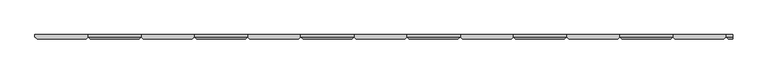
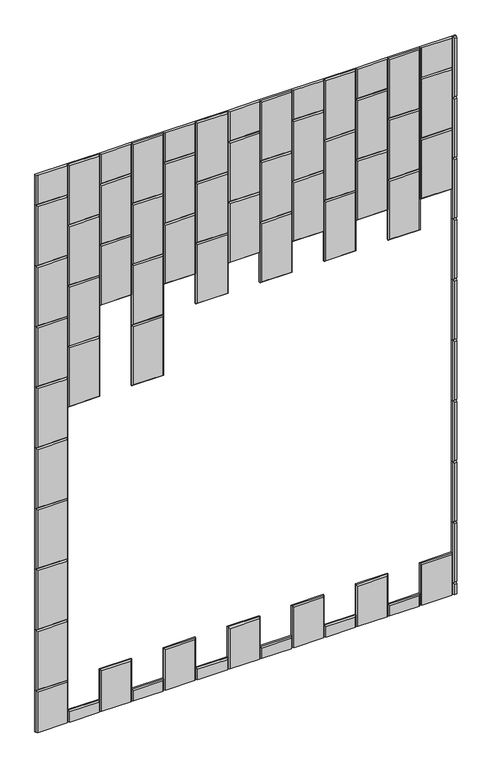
"""IFC4 building model written with IfcOpenShell, lengths in millimetres: proxy geometry, Wall_Wisteria 7.3dm."""

import ifcopenshell
import ifcopenshell.guid

model = None  # the IFC model being written
_history = None  # IfcOwnerHistory: only IFC2X3 demands one
_inside = {}  # id of a spatial element -> (the spatial element, [elements in it])
_under = {}  # id of a project, library or spatial element -> (it, [spatial elements below it])
_declared = {}  # id of a project -> (the project, [libraries it declares])
_typed = {}  # id of a type object -> (the type object, [elements of that type])
_made_of = {}  # id of a material, layer set ... -> (it, [elements and type objects made of it])


def new_model(schema):
    """Start an empty IFC model of exactly this schema.

    Asked for "IFC4X3", IfcOpenShell would pick the latest addendum, in which some entities
    have other attributes; the version numbers below select the first issue.
    IFC2X3 requires an IfcOwnerHistory on every rooted entity: one is made here for all.
    """
    global model, _history
    if schema == "IFC4X3":
        model = ifcopenshell.file(schema_version=(4, 3, 0, 0))
    else:
        model = ifcopenshell.file(schema=schema)
    _inside.clear()
    _under.clear()
    _declared.clear()
    _typed.clear()
    _made_of.clear()
    _history = None
    if model.schema == "IFC2X3":
        org = make("IfcOrganization", Name="unknown")
        user = make(
            "IfcPersonAndOrganization",
            ThePerson=make("IfcPerson", FamilyName="unknown"),
            TheOrganization=org,
        )
        app = make(
            "IfcApplication",
            ApplicationDeveloper=org,
            Version="unknown",
            ApplicationFullName="unknown",
            ApplicationIdentifier="unknown",
        )
        _history = make(
            "IfcOwnerHistory",
            OwningUser=user,
            OwningApplication=app,
            ChangeAction="ADDED",
            CreationDate=0,
        )
    return model


def make(cls, **values):
    """One entity of the class cls with the attributes given. An attribute that is None is left unset."""
    return model.create_entity(
        cls, **{name: value for name, value in values.items() if value is not None}
    )


def rooted(cls, **values):
    """An entity with a GlobalId (a new one), such as an element, a storey or a relation."""
    return make(cls, GlobalId=ifcopenshell.guid.new(), OwnerHistory=_history, **values)


def si_unit(unit_type, name, prefix=None):
    """IfcSIUnit, for example si_unit("LENGTHUNIT", "METRE", prefix="MILLI")."""
    return make("IfcSIUnit", UnitType=unit_type, Prefix=prefix, Name=name)


def assignment(units):
    """IfcUnitAssignment: the units of a project."""
    return None if units is None else make("IfcUnitAssignment", Units=units)


def point(xyz):
    """IfcCartesianPoint."""
    return None if xyz is None else make("IfcCartesianPoint", Coordinates=xyz)


def direction(xyz):
    """IfcDirection."""
    return None if xyz is None else make("IfcDirection", DirectionRatios=xyz)


def frame(location, z_axis=None, x_axis=None):
    """IfcAxis2Placement3D, a coordinate frame: its origin and axes. An axis left out is left unset."""
    return make(
        "IfcAxis2Placement3D",
        Location=point(location),
        Axis=direction(z_axis),
        RefDirection=direction(x_axis),
    )


def origin():
    """The frame at (0, 0, 0) with its axes left unset."""
    return frame((0.0, 0.0, 0.0))


def place(relative_to, where):
    """IfcLocalPlacement: puts the frame where relative to a parent placement (None: the world)."""
    return make(
        "IfcLocalPlacement", PlacementRelTo=relative_to, RelativePlacement=where
    )


def context(
    kind, dimensions, precision=None, world=None, true_north=None, identifier=None
):
    """IfcGeometricRepresentationContext, for example the 3D "Model" context."""
    return make(
        "IfcGeometricRepresentationContext",
        ContextIdentifier=identifier,
        ContextType=kind,
        CoordinateSpaceDimension=dimensions,
        Precision=precision,
        WorldCoordinateSystem=world,
        TrueNorth=true_north,
    )


def project(units=None, contexts=None):
    """IfcProject with its units and contexts."""
    return rooted(
        "IfcProject",
        Name="project",
        RepresentationContexts=contexts,
        UnitsInContext=assignment(units),
    )


def spatial(cls, under=None, at=None, **own):
    """A site, building, storey or space (cls), placed at a placement, below another one or the project."""
    s = rooted(cls, ObjectPlacement=at, **own)
    if under is not None:
        _under.setdefault(under.id(), (under, []))[1].append(s)
    return s


def faces_of(points, faces, orient=None, outer=None):
    """IfcFace entities. A face is a list of loops; a loop is a list of indices into points, from 0.

    orient and outer hold one flag for each loop. By default every Orientation is true, the
    first loop of a face is its IfcFaceOuterBound and the others are IfcFaceBound.
    """
    made = []
    for i, loops in enumerate(faces):
        bounds = []
        for j, loop in enumerate(loops):
            is_outer = j == 0 if outer is None else outer[i][j]
            bounds.append(
                make(
                    "IfcFaceOuterBound" if is_outer else "IfcFaceBound",
                    Bound=make("IfcPolyLoop", Polygon=[points[k] for k in loop]),
                    Orientation=True if orient is None else orient[i][j],
                )
            )
        made.append(make("IfcFace", Bounds=bounds))
    return made


def faceted_brep(points, faces, orient=None, outer=None, voids=None):
    """IfcFacetedBrep: a solid bounded by flat faces; with voids (closed shells), ...WithVoids."""
    shared = [point(p) for p in points]
    hull = make("IfcClosedShell", CfsFaces=faces_of(shared, faces, orient, outer))
    if voids is None:
        return make("IfcFacetedBrep", Outer=hull)
    return make(
        "IfcFacetedBrepWithVoids",
        Outer=hull,
        Voids=[
            make(cls, CfsFaces=faces_of(shared, fs, o, b)) for cls, fs, o, b in voids
        ],
    )


def shape(context_of_items, identifier, shape_type, items):
    """IfcShapeRepresentation: the items that make up one representation, for example the "Body"."""
    return make(
        "IfcShapeRepresentation",
        ContextOfItems=context_of_items,
        RepresentationIdentifier=identifier,
        RepresentationType=shape_type,
        Items=items,
    )


def source(mapping_origin, context_of_items, identifier, shape_type, items):
    """IfcRepresentationMap: a shape defined once, which mapped items show again and again."""
    return make(
        "IfcRepresentationMap",
        MappingOrigin=mapping_origin,
        MappedRepresentation=shape(context_of_items, identifier, shape_type, items),
    )


def transform(
    local_origin,
    x_axis=None,
    y_axis=None,
    z_axis=None,
    scale=None,
    scale2=None,
    scale3=None,
    uniform=True,
):
    """IfcCartesianTransformationOperator3D, or its non-uniform kind. x_axis, y_axis, z_axis: its Axis1, 2, 3."""
    if uniform:
        return make(
            "IfcCartesianTransformationOperator3D",
            Axis1=direction(x_axis),
            Axis2=direction(y_axis),
            LocalOrigin=point(local_origin),
            Scale=scale,
            Axis3=direction(z_axis),
        )
    return make(
        "IfcCartesianTransformationOperator3DnonUniform",
        Axis1=direction(x_axis),
        Axis2=direction(y_axis),
        LocalOrigin=point(local_origin),
        Scale=scale,
        Axis3=direction(z_axis),
        Scale2=scale2,
        Scale3=scale3,
    )


def mapped(mapping_source, mapping_target):
    """IfcMappedItem: shows the shape of a source again, moved by a transform."""
    return make(
        "IfcMappedItem", MappingSource=mapping_source, MappingTarget=mapping_target
    )


def made_of(thing, what):
    """Note that an element or type object is made of a material, layer set ...; save() writes the relation."""
    if what is not None:
        _made_of.setdefault(what.id(), (what, []))[1].append(thing)
    return thing


def element(
    cls,
    number,
    at=None,
    inside=None,
    cuts=None,
    type_object=None,
    material=None,
    context=None,
    identifier="Body",
    shape_type=None,
    held_by="IfcProductDefinitionShape",
    body=None,
    shapes=None,
    **own,
):
    """One element of the class cls, such as IfcWall. Its Tag is "e" and its number.

    at: its placement. inside: the storey or other place that contains it. cuts: it is an
    opening in that element (IfcRelVoidsElement). A single representation is given by context,
    identifier, shape_type and body (its items); several are given by shapes. held_by: the class
    of the entity that holds the representations. save() writes the other relations.
    """
    e = rooted(cls, Tag="e%d" % number, ObjectPlacement=at, **own)
    if body is not None:
        shapes = [shape(context, identifier, shape_type, body)]
    if shapes is not None:
        e.Representation = make(held_by, Representations=shapes)
    if inside is not None:
        _inside.setdefault(inside.id(), (inside, []))[1].append(e)
    if cuts is not None:
        rooted(
            "IfcRelVoidsElement", RelatingBuildingElement=cuts, RelatedOpeningElement=e
        )
    if type_object is not None:
        _typed.setdefault(type_object.id(), (type_object, []))[1].append(e)
    return made_of(e, material)


def aggregate(whole, parts):
    """IfcRelAggregates: a whole, such as a stair, and the parts it consists of."""
    return rooted("IfcRelAggregates", RelatingObject=whole, RelatedObjects=parts)


def save(model, path):
    """Write the relations noted so far, then the file.

    IfcRelAggregates (storeys below a building ...), IfcRelContainedInSpatialStructure (elements
    in a storey), IfcRelDefinesByType, IfcRelAssociatesMaterial and IfcRelDeclares: one each for
    every whole, place, type object, material and project.
    """
    for whole, parts in _under.values():
        aggregate(whole, parts)
    for where, things in _inside.values():
        rooted(
            "IfcRelContainedInSpatialStructure",
            RelatedElements=things,
            RelatingStructure=where,
        )
    for kind, things in _typed.values():
        rooted("IfcRelDefinesByType", RelatedObjects=things, RelatingType=kind)
    for what, things in _made_of.values():
        rooted("IfcRelAssociatesMaterial", RelatedObjects=things, RelatingMaterial=what)
    for by, libraries in _declared.values():
        rooted("IfcRelDeclares", RelatingContext=by, RelatedDefinitions=libraries)
    model.write(path)


def generic_models_bda26717(model_context):
    return source(origin(), model_context, "Body", "Brep", [
        faceted_brep([(9473.4096042, 12.0, 1580.8), (9473.4096042, 12.0, 1885.6), (9625.8096042, 12.0, 1885.6), (9625.8096042, 12.0, 1580.8), (9473.4096042, 6.0, 1580.8), (9625.8096042, 6.0, 1580.8), (9625.8096042, 6.0, 1885.6), (9473.4096042, 6.0, 1885.6), (9619.8096042, 0.0, 1879.6), (9479.4096042, 0.0, 1879.6), (9479.4096042, 0.0, 1586.8), (9619.8096042, 0.0, 1586.8)], [[[0, 1, 2, 3]], [[4, 0, 3, 5]], [[5, 3, 2, 6]], [[6, 2, 1, 7]], [[7, 1, 0, 4]], [[8, 9, 10, 11]], [[4, 5, 11, 10]], [[5, 6, 8, 11]], [[6, 7, 9, 8]], [[7, 4, 10, 9]]]),
        faceted_brep([(9168.6096042, 12.0, 1580.8), (9168.6096042, 12.0, 1885.6), (9321.0096042, 12.0, 1885.6), (9321.0096042, 12.0, 1580.8), (9168.6096042, 6.0, 1580.8), (9321.0096042, 6.0, 1580.8), (9321.0096042, 6.0, 1885.6), (9168.6096042, 6.0, 1885.6), (9315.0096042, 0.0, 1879.6), (9174.6096042, 0.0, 1879.6), (9174.6096042, 0.0, 1586.8), (9315.0096042, 0.0, 1586.8)], [[[0, 1, 2, 3]], [[4, 0, 3, 5]], [[5, 3, 2, 6]], [[6, 2, 1, 7]], [[7, 1, 0, 4]], [[8, 9, 10, 11]], [[4, 5, 11, 10]], [[5, 6, 8, 11]], [[6, 7, 9, 8]], [[7, 4, 10, 9]]]),
        faceted_brep([(10692.6096042, 12.0, 2495.2), (10692.6096042, 12.0, 2800.0), (10845.0096042, 12.0, 2800.0), (10845.0096042, 12.0, 2495.2), (10692.6096042, 6.0, 2495.2), (10845.0096042, 6.0, 2495.2), (10845.0096042, 6.0, 2800.0), (10692.6096042, 6.0, 2800.0), (10839.0096042, 0.0, 2794.0), (10698.6096042, 0.0, 2794.0), (10698.6096042, 0.0, 2501.2), (10839.0096042, 0.0, 2501.2)], [[[0, 1, 2, 3]], [[4, 0, 3, 5]], [[5, 3, 2, 6]], [[6, 2, 1, 7]], [[7, 1, 0, 4]], [[8, 9, 10, 11]], [[4, 5, 11, 10]], [[5, 6, 8, 11]], [[6, 7, 9, 8]], [[7, 4, 10, 9]]]),
        faceted_brep([(10387.8096042, 12.0, 2495.2), (10387.8096042, 12.0, 2800.0), (10540.2096042, 12.0, 2800.0), (10540.2096042, 12.0, 2495.2), (10387.8096042, 6.0, 2495.2), (10540.2096042, 6.0, 2495.2), (10540.2096042, 6.0, 2800.0), (10387.8096042, 6.0, 2800.0), (10534.2096042, 0.0, 2794.0), (10393.8096042, 0.0, 2794.0), (10393.8096042, 0.0, 2501.2), (10534.2096042, 0.0, 2501.2)], [[[0, 1, 2, 3]], [[4, 0, 3, 5]], [[5, 3, 2, 6]], [[6, 2, 1, 7]], [[7, 1, 0, 4]], [[8, 9, 10, 11]], [[4, 5, 11, 10]], [[5, 6, 8, 11]], [[6, 7, 9, 8]], [[7, 4, 10, 9]]]),
        faceted_brep([(10083.0096042, 12.0, 2495.2), (10083.0096042, 12.0, 2800.0), (10235.4096042, 12.0, 2800.0), (10235.4096042, 12.0, 2495.2), (10083.0096042, 6.0, 2495.2), (10235.4096042, 6.0, 2495.2), (10235.4096042, 6.0, 2800.0), (10083.0096042, 6.0, 2800.0), (10229.4096042, 0.0, 2794.0), (10089.0096042, 0.0, 2794.0), (10089.0096042, 0.0, 2501.2), (10229.4096042, 0.0, 2501.2)], [[[0, 1, 2, 3]], [[4, 0, 3, 5]], [[5, 3, 2, 6]], [[6, 2, 1, 7]], [[7, 1, 0, 4]], [[8, 9, 10, 11]], [[4, 5, 11, 10]], [[5, 6, 8, 11]], [[6, 7, 9, 8]], [[7, 4, 10, 9]]]),
        faceted_brep([(9778.2096042, 12.0, 2495.2), (9778.2096042, 12.0, 2800.0), (9930.6096042, 12.0, 2800.0), (9930.6096042, 12.0, 2495.2), (9778.2096042, 6.0, 2495.2), (9930.6096042, 6.0, 2495.2), (9930.6096042, 6.0, 2800.0), (9778.2096042, 6.0, 2800.0), (9924.6096042, 0.0, 2794.0), (9784.2096042, 0.0, 2794.0), (9784.2096042, 0.0, 2501.2), (9924.6096042, 0.0, 2501.2)], [[[0, 1, 2, 3]], [[4, 0, 3, 5]], [[5, 3, 2, 6]], [[6, 2, 1, 7]], [[7, 1, 0, 4]], [[8, 9, 10, 11]], [[4, 5, 11, 10]], [[5, 6, 8, 11]], [[6, 7, 9, 8]], [[7, 4, 10, 9]]]),
        faceted_brep([(9473.4096042, 12.0, 2495.2), (9473.4096042, 12.0, 2800.0), (9625.8096042, 12.0, 2800.0), (9625.8096042, 12.0, 2495.2), (9473.4096042, 6.0, 2495.2), (9625.8096042, 6.0, 2495.2), (9625.8096042, 6.0, 2800.0), (9473.4096042, 6.0, 2800.0), (9619.8096042, 0.0, 2794.0), (9479.4096042, 0.0, 2794.0), (9479.4096042, 0.0, 2501.2), (9619.8096042, 0.0, 2501.2)], [[[0, 1, 2, 3]], [[4, 0, 3, 5]], [[5, 3, 2, 6]], [[6, 2, 1, 7]], [[7, 1, 0, 4]], [[8, 9, 10, 11]], [[4, 5, 11, 10]], [[5, 6, 8, 11]], [[6, 7, 9, 8]], [[7, 4, 10, 9]]]),
        faceted_brep([(9168.6096042, 12.0, 2495.2), (9168.6096042, 12.0, 2800.0), (9321.0096042, 12.0, 2800.0), (9321.0096042, 12.0, 2495.2), (9168.6096042, 6.0, 2495.2), (9321.0096042, 6.0, 2495.2), (9321.0096042, 6.0, 2800.0), (9168.6096042, 6.0, 2800.0), (9315.0096042, 0.0, 2794.0), (9174.6096042, 0.0, 2794.0), (9174.6096042, 0.0, 2501.2), (9315.0096042, 0.0, 2501.2)], [[[0, 1, 2, 3]], [[4, 0, 3, 5]], [[5, 3, 2, 6]], [[6, 2, 1, 7]], [[7, 1, 0, 4]], [[8, 9, 10, 11]], [[4, 5, 11, 10]], [[5, 6, 8, 11]], [[6, 7, 9, 8]], [[7, 4, 10, 9]]]),
        faceted_brep([(10845.0096042, 12.0, 2342.8), (10845.0096042, 12.0, 2647.6), (10997.4096042, 12.0, 2647.6), (10997.4096042, 12.0, 2342.8), (10845.0096042, 6.0, 2342.8), (10997.4096042, 6.0, 2342.8), (10997.4096042, 6.0, 2647.6), (10845.0096042, 6.0, 2647.6), (10991.4096042, 0.0, 2641.6), (10851.0096042, 0.0, 2641.6), (10851.0096042, 0.0, 2348.8), (10991.4096042, 0.0, 2348.8)], [[[0, 1, 2, 3]], [[4, 0, 3, 5]], [[5, 3, 2, 6]], [[6, 2, 1, 7]], [[7, 1, 0, 4]], [[8, 9, 10, 11]], [[4, 5, 11, 10]], [[5, 6, 8, 11]], [[6, 7, 9, 8]], [[7, 4, 10, 9]]]),
        faceted_brep([(10540.2096042, 12.0, 2342.8), (10540.2096042, 12.0, 2647.6), (10692.6096042, 12.0, 2647.6), (10692.6096042, 12.0, 2342.8), (10540.2096042, 6.0, 2342.8), (10692.6096042, 6.0, 2342.8), (10692.6096042, 6.0, 2647.6), (10540.2096042, 6.0, 2647.6), (10686.6096042, 0.0, 2641.6), (10546.2096042, 0.0, 2641.6), (10546.2096042, 0.0, 2348.8), (10686.6096042, 0.0, 2348.8)], [[[0, 1, 2, 3]], [[4, 0, 3, 5]], [[5, 3, 2, 6]], [[6, 2, 1, 7]], [[7, 1, 0, 4]], [[8, 9, 10, 11]], [[4, 5, 11, 10]], [[5, 6, 8, 11]], [[6, 7, 9, 8]], [[7, 4, 10, 9]]]),
        faceted_brep([(10692.6096042, 12.0, 2190.4), (10692.6096042, 12.0, 2495.2), (10845.0096042, 12.0, 2495.2), (10845.0096042, 12.0, 2190.4), (10692.6096042, 6.0, 2190.4), (10845.0096042, 6.0, 2190.4), (10845.0096042, 6.0, 2495.2), (10692.6096042, 6.0, 2495.2), (10839.0096042, 0.0, 2489.2), (10698.6096042, 0.0, 2489.2), (10698.6096042, 0.0, 2196.4), (10839.0096042, 0.0, 2196.4)], [[[0, 1, 2, 3]], [[4, 0, 3, 5]], [[5, 3, 2, 6]], [[6, 2, 1, 7]], [[7, 1, 0, 4]], [[8, 9, 10, 11]], [[4, 5, 11, 10]], [[5, 6, 8, 11]], [[6, 7, 9, 8]], [[7, 4, 10, 9]]]),
        faceted_brep([(10235.4096042, 12.0, 2342.8), (10235.4096042, 12.0, 2647.6), (10387.8096042, 12.0, 2647.6), (10387.8096042, 12.0, 2342.8), (10235.4096042, 6.0, 2342.8), (10387.8096042, 6.0, 2342.8), (10387.8096042, 6.0, 2647.6), (10235.4096042, 6.0, 2647.6), (10381.8096042, 0.0, 2641.6), (10241.4096042, 0.0, 2641.6), (10241.4096042, 0.0, 2348.8), (10381.8096042, 0.0, 2348.8)], [[[0, 1, 2, 3]], [[4, 0, 3, 5]], [[5, 3, 2, 6]], [[6, 2, 1, 7]], [[7, 1, 0, 4]], [[8, 9, 10, 11]], [[4, 5, 11, 10]], [[5, 6, 8, 11]], [[6, 7, 9, 8]], [[7, 4, 10, 9]]]),
        faceted_brep([(10387.8096042, 12.0, 2190.4), (10387.8096042, 12.0, 2495.2), (10540.2096042, 12.0, 2495.2), (10540.2096042, 12.0, 2190.4), (10387.8096042, 6.0, 2190.4), (10540.2096042, 6.0, 2190.4), (10540.2096042, 6.0, 2495.2), (10387.8096042, 6.0, 2495.2), (10534.2096042, 0.0, 2489.2), (10393.8096042, 0.0, 2489.2), (10393.8096042, 0.0, 2196.4), (10534.2096042, 0.0, 2196.4)], [[[0, 1, 2, 3]], [[4, 0, 3, 5]], [[5, 3, 2, 6]], [[6, 2, 1, 7]], [[7, 1, 0, 4]], [[8, 9, 10, 11]], [[4, 5, 11, 10]], [[5, 6, 8, 11]], [[6, 7, 9, 8]], [[7, 4, 10, 9]]]),
        faceted_brep([(9930.6096042, 12.0, 2342.8), (9930.6096042, 12.0, 2647.6), (10083.0096042, 12.0, 2647.6), (10083.0096042, 12.0, 2342.8), (9930.6096042, 6.0, 2342.8), (10083.0096042, 6.0, 2342.8), (10083.0096042, 6.0, 2647.6), (9930.6096042, 6.0, 2647.6), (10077.0096042, 0.0, 2641.6), (9936.6096042, 0.0, 2641.6), (9936.6096042, 0.0, 2348.8), (10077.0096042, 0.0, 2348.8)], [[[0, 1, 2, 3]], [[4, 0, 3, 5]], [[5, 3, 2, 6]], [[6, 2, 1, 7]], [[7, 1, 0, 4]], [[8, 9, 10, 11]], [[4, 5, 11, 10]], [[5, 6, 8, 11]], [[6, 7, 9, 8]], [[7, 4, 10, 9]]]),
        faceted_brep([(10083.0096042, 12.0, 2190.4), (10083.0096042, 12.0, 2495.2), (10235.4096042, 12.0, 2495.2), (10235.4096042, 12.0, 2190.4), (10083.0096042, 6.0, 2190.4), (10235.4096042, 6.0, 2190.4), (10235.4096042, 6.0, 2495.2), (10083.0096042, 6.0, 2495.2), (10229.4096042, 0.0, 2489.2), (10089.0096042, 0.0, 2489.2), (10089.0096042, 0.0, 2196.4), (10229.4096042, 0.0, 2196.4)], [[[0, 1, 2, 3]], [[4, 0, 3, 5]], [[5, 3, 2, 6]], [[6, 2, 1, 7]], [[7, 1, 0, 4]], [[8, 9, 10, 11]], [[4, 5, 11, 10]], [[5, 6, 8, 11]], [[6, 7, 9, 8]], [[7, 4, 10, 9]]]),
        faceted_brep([(9625.8096042, 12.0, 2342.8), (9625.8096042, 12.0, 2647.6), (9778.2096042, 12.0, 2647.6), (9778.2096042, 12.0, 2342.8), (9625.8096042, 6.0, 2342.8), (9778.2096042, 6.0, 2342.8), (9778.2096042, 6.0, 2647.6), (9625.8096042, 6.0, 2647.6), (9772.2096042, 0.0, 2641.6), (9631.8096042, 0.0, 2641.6), (9631.8096042, 0.0, 2348.8), (9772.2096042, 0.0, 2348.8)], [[[0, 1, 2, 3]], [[4, 0, 3, 5]], [[5, 3, 2, 6]], [[6, 2, 1, 7]], [[7, 1, 0, 4]], [[8, 9, 10, 11]], [[4, 5, 11, 10]], [[5, 6, 8, 11]], [[6, 7, 9, 8]], [[7, 4, 10, 9]]]),
        faceted_brep([(9778.2096042, 12.0, 2190.4), (9778.2096042, 12.0, 2495.2), (9930.6096042, 12.0, 2495.2), (9930.6096042, 12.0, 2190.4), (9778.2096042, 6.0, 2190.4), (9930.6096042, 6.0, 2190.4), (9930.6096042, 6.0, 2495.2), (9778.2096042, 6.0, 2495.2), (9924.6096042, 0.0, 2489.2), (9784.2096042, 0.0, 2489.2), (9784.2096042, 0.0, 2196.4), (9924.6096042, 0.0, 2196.4)], [[[0, 1, 2, 3]], [[4, 0, 3, 5]], [[5, 3, 2, 6]], [[6, 2, 1, 7]], [[7, 1, 0, 4]], [[8, 9, 10, 11]], [[4, 5, 11, 10]], [[5, 6, 8, 11]], [[6, 7, 9, 8]], [[7, 4, 10, 9]]]),
        faceted_brep([(9321.0096042, 12.0, 2342.8), (9321.0096042, 12.0, 2647.6), (9473.4096042, 12.0, 2647.6), (9473.4096042, 12.0, 2342.8), (9321.0096042, 6.0, 2342.8), (9473.4096042, 6.0, 2342.8), (9473.4096042, 6.0, 2647.6), (9321.0096042, 6.0, 2647.6), (9467.4096042, 0.0, 2641.6), (9327.0096042, 0.0, 2641.6), (9327.0096042, 0.0, 2348.8), (9467.4096042, 0.0, 2348.8)], [[[0, 1, 2, 3]], [[4, 0, 3, 5]], [[5, 3, 2, 6]], [[6, 2, 1, 7]], [[7, 1, 0, 4]], [[8, 9, 10, 11]], [[4, 5, 11, 10]], [[5, 6, 8, 11]], [[6, 7, 9, 8]], [[7, 4, 10, 9]]]),
        faceted_brep([(9473.4096042, 12.0, 2190.4), (9473.4096042, 12.0, 2495.2), (9625.8096042, 12.0, 2495.2), (9625.8096042, 12.0, 2190.4), (9473.4096042, 6.0, 2190.4), (9625.8096042, 6.0, 2190.4), (9625.8096042, 6.0, 2495.2), (9473.4096042, 6.0, 2495.2), (9619.8096042, 0.0, 2489.2), (9479.4096042, 0.0, 2489.2), (9479.4096042, 0.0, 2196.4), (9619.8096042, 0.0, 2196.4)], [[[0, 1, 2, 3]], [[4, 0, 3, 5]], [[5, 3, 2, 6]], [[6, 2, 1, 7]], [[7, 1, 0, 4]], [[8, 9, 10, 11]], [[4, 5, 11, 10]], [[5, 6, 8, 11]], [[6, 7, 9, 8]], [[7, 4, 10, 9]]]),
        faceted_brep([(9168.6096042, 12.0, 2190.4), (9168.6096042, 12.0, 2495.2), (9321.0096042, 12.0, 2495.2), (9321.0096042, 12.0, 2190.4), (9168.6096042, 6.0, 2190.4), (9321.0096042, 6.0, 2190.4), (9321.0096042, 6.0, 2495.2), (9168.6096042, 6.0, 2495.2), (9315.0096042, 0.0, 2489.2), (9174.6096042, 0.0, 2489.2), (9174.6096042, 0.0, 2196.4), (9315.0096042, 0.0, 2196.4)], [[[0, 1, 2, 3]], [[4, 0, 3, 5]], [[5, 3, 2, 6]], [[6, 2, 1, 7]], [[7, 1, 0, 4]], [[8, 9, 10, 11]], [[4, 5, 11, 10]], [[5, 6, 8, 11]], [[6, 7, 9, 8]], [[7, 4, 10, 9]]]),
        faceted_brep([(10845.0096042, 12.0, 2038.0), (10845.0096042, 12.0, 2342.8), (10997.4096042, 12.0, 2342.8), (10997.4096042, 12.0, 2038.0), (10845.0096042, 6.0, 2038.0), (10997.4096042, 6.0, 2038.0), (10997.4096042, 6.0, 2342.8), (10845.0096042, 6.0, 2342.8), (10991.4096042, 0.0, 2336.8), (10851.0096042, 0.0, 2336.8), (10851.0096042, 0.0, 2044.0), (10991.4096042, 0.0, 2044.0)], [[[0, 1, 2, 3]], [[4, 0, 3, 5]], [[5, 3, 2, 6]], [[6, 2, 1, 7]], [[7, 1, 0, 4]], [[8, 9, 10, 11]], [[4, 5, 11, 10]], [[5, 6, 8, 11]], [[6, 7, 9, 8]], [[7, 4, 10, 9]]]),
        faceted_brep([(10540.2096042, 12.0, 2038.0), (10540.2096042, 12.0, 2342.8), (10692.6096042, 12.0, 2342.8), (10692.6096042, 12.0, 2038.0), (10540.2096042, 6.0, 2038.0), (10692.6096042, 6.0, 2038.0), (10692.6096042, 6.0, 2342.8), (10540.2096042, 6.0, 2342.8), (10686.6096042, 0.0, 2336.8), (10546.2096042, 0.0, 2336.8), (10546.2096042, 0.0, 2044.0), (10686.6096042, 0.0, 2044.0)], [[[0, 1, 2, 3]], [[4, 0, 3, 5]], [[5, 3, 2, 6]], [[6, 2, 1, 7]], [[7, 1, 0, 4]], [[8, 9, 10, 11]], [[4, 5, 11, 10]], [[5, 6, 8, 11]], [[6, 7, 9, 8]], [[7, 4, 10, 9]]]),
        faceted_brep([(10692.6096042, 12.0, 1885.6), (10692.6096042, 12.0, 2190.4), (10845.0096042, 12.0, 2190.4), (10845.0096042, 12.0, 1885.6), (10692.6096042, 6.0, 1885.6), (10845.0096042, 6.0, 1885.6), (10845.0096042, 6.0, 2190.4), (10692.6096042, 6.0, 2190.4), (10839.0096042, 0.0, 2184.4), (10698.6096042, 0.0, 2184.4), (10698.6096042, 0.0, 1891.6), (10839.0096042, 0.0, 1891.6)], [[[0, 1, 2, 3]], [[4, 0, 3, 5]], [[5, 3, 2, 6]], [[6, 2, 1, 7]], [[7, 1, 0, 4]], [[8, 9, 10, 11]], [[4, 5, 11, 10]], [[5, 6, 8, 11]], [[6, 7, 9, 8]], [[7, 4, 10, 9]]]),
        faceted_brep([(10235.4096042, 12.0, 2038.0), (10235.4096042, 12.0, 2342.8), (10387.8096042, 12.0, 2342.8), (10387.8096042, 12.0, 2038.0), (10235.4096042, 6.0, 2038.0), (10387.8096042, 6.0, 2038.0), (10387.8096042, 6.0, 2342.8), (10235.4096042, 6.0, 2342.8), (10381.8096042, 0.0, 2336.8), (10241.4096042, 0.0, 2336.8), (10241.4096042, 0.0, 2044.0), (10381.8096042, 0.0, 2044.0)], [[[0, 1, 2, 3]], [[4, 0, 3, 5]], [[5, 3, 2, 6]], [[6, 2, 1, 7]], [[7, 1, 0, 4]], [[8, 9, 10, 11]], [[4, 5, 11, 10]], [[5, 6, 8, 11]], [[6, 7, 9, 8]], [[7, 4, 10, 9]]]),
        faceted_brep([(10387.8096042, 12.0, 1885.6), (10387.8096042, 12.0, 2190.4), (10540.2096042, 12.0, 2190.4), (10540.2096042, 12.0, 1885.6), (10387.8096042, 6.0, 1885.6), (10540.2096042, 6.0, 1885.6), (10540.2096042, 6.0, 2190.4), (10387.8096042, 6.0, 2190.4), (10534.2096042, 0.0, 2184.4), (10393.8096042, 0.0, 2184.4), (10393.8096042, 0.0, 1891.6), (10534.2096042, 0.0, 1891.6)], [[[0, 1, 2, 3]], [[4, 0, 3, 5]], [[5, 3, 2, 6]], [[6, 2, 1, 7]], [[7, 1, 0, 4]], [[8, 9, 10, 11]], [[4, 5, 11, 10]], [[5, 6, 8, 11]], [[6, 7, 9, 8]], [[7, 4, 10, 9]]]),
        faceted_brep([(9930.6096042, 12.0, 2038.0), (9930.6096042, 12.0, 2342.8), (10083.0096042, 12.0, 2342.8), (10083.0096042, 12.0, 2038.0), (9930.6096042, 6.0, 2038.0), (10083.0096042, 6.0, 2038.0), (10083.0096042, 6.0, 2342.8), (9930.6096042, 6.0, 2342.8), (10077.0096042, 0.0, 2336.8), (9936.6096042, 0.0, 2336.8), (9936.6096042, 0.0, 2044.0), (10077.0096042, 0.0, 2044.0)], [[[0, 1, 2, 3]], [[4, 0, 3, 5]], [[5, 3, 2, 6]], [[6, 2, 1, 7]], [[7, 1, 0, 4]], [[8, 9, 10, 11]], [[4, 5, 11, 10]], [[5, 6, 8, 11]], [[6, 7, 9, 8]], [[7, 4, 10, 9]]]),
        faceted_brep([(10083.0096042, 12.0, 1885.6), (10083.0096042, 12.0, 2190.4), (10235.4096042, 12.0, 2190.4), (10235.4096042, 12.0, 1885.6), (10083.0096042, 6.0, 1885.6), (10235.4096042, 6.0, 1885.6), (10235.4096042, 6.0, 2190.4), (10083.0096042, 6.0, 2190.4), (10229.4096042, 0.0, 2184.4), (10089.0096042, 0.0, 2184.4), (10089.0096042, 0.0, 1891.6), (10229.4096042, 0.0, 1891.6)], [[[0, 1, 2, 3]], [[4, 0, 3, 5]], [[5, 3, 2, 6]], [[6, 2, 1, 7]], [[7, 1, 0, 4]], [[8, 9, 10, 11]], [[4, 5, 11, 10]], [[5, 6, 8, 11]], [[6, 7, 9, 8]], [[7, 4, 10, 9]]]),
        faceted_brep([(9625.8096042, 12.0, 2038.0), (9625.8096042, 12.0, 2342.8), (9778.2096042, 12.0, 2342.8), (9778.2096042, 12.0, 2038.0), (9625.8096042, 6.0, 2038.0), (9778.2096042, 6.0, 2038.0), (9778.2096042, 6.0, 2342.8), (9625.8096042, 6.0, 2342.8), (9772.2096042, 0.0, 2336.8), (9631.8096042, 0.0, 2336.8), (9631.8096042, 0.0, 2044.0), (9772.2096042, 0.0, 2044.0)], [[[0, 1, 2, 3]], [[4, 0, 3, 5]], [[5, 3, 2, 6]], [[6, 2, 1, 7]], [[7, 1, 0, 4]], [[8, 9, 10, 11]], [[4, 5, 11, 10]], [[5, 6, 8, 11]], [[6, 7, 9, 8]], [[7, 4, 10, 9]]]),
        faceted_brep([(9778.2096042, 12.0, 1885.6), (9778.2096042, 12.0, 2190.4), (9930.6096042, 12.0, 2190.4), (9930.6096042, 12.0, 1885.6), (9778.2096042, 6.0, 1885.6), (9930.6096042, 6.0, 1885.6), (9930.6096042, 6.0, 2190.4), (9778.2096042, 6.0, 2190.4), (9924.6096042, 0.0, 2184.4), (9784.2096042, 0.0, 2184.4), (9784.2096042, 0.0, 1891.6), (9924.6096042, 0.0, 1891.6)], [[[0, 1, 2, 3]], [[4, 0, 3, 5]], [[5, 3, 2, 6]], [[6, 2, 1, 7]], [[7, 1, 0, 4]], [[8, 9, 10, 11]], [[4, 5, 11, 10]], [[5, 6, 8, 11]], [[6, 7, 9, 8]], [[7, 4, 10, 9]]]),
        faceted_brep([(9321.0096042, 12.0, 2038.0), (9321.0096042, 12.0, 2342.8), (9473.4096042, 12.0, 2342.8), (9473.4096042, 12.0, 2038.0), (9321.0096042, 6.0, 2038.0), (9473.4096042, 6.0, 2038.0), (9473.4096042, 6.0, 2342.8), (9321.0096042, 6.0, 2342.8), (9467.4096042, 0.0, 2336.8), (9327.0096042, 0.0, 2336.8), (9327.0096042, 0.0, 2044.0), (9467.4096042, 0.0, 2044.0)], [[[0, 1, 2, 3]], [[4, 0, 3, 5]], [[5, 3, 2, 6]], [[6, 2, 1, 7]], [[7, 1, 0, 4]], [[8, 9, 10, 11]], [[4, 5, 11, 10]], [[5, 6, 8, 11]], [[6, 7, 9, 8]], [[7, 4, 10, 9]]]),
        faceted_brep([(9473.4096042, 12.0, 1885.6), (9473.4096042, 12.0, 2190.4), (9625.8096042, 12.0, 2190.4), (9625.8096042, 12.0, 1885.6), (9473.4096042, 6.0, 1885.6), (9625.8096042, 6.0, 1885.6), (9625.8096042, 6.0, 2190.4), (9473.4096042, 6.0, 2190.4), (9619.8096042, 0.0, 2184.4), (9479.4096042, 0.0, 2184.4), (9479.4096042, 0.0, 1891.6), (9619.8096042, 0.0, 1891.6)], [[[0, 1, 2, 3]], [[4, 0, 3, 5]], [[5, 3, 2, 6]], [[6, 2, 1, 7]], [[7, 1, 0, 4]], [[8, 9, 10, 11]], [[4, 5, 11, 10]], [[5, 6, 8, 11]], [[6, 7, 9, 8]], [[7, 4, 10, 9]]]),
        faceted_brep([(9168.6096042, 12.0, 1885.6), (9168.6096042, 12.0, 2190.4), (9321.0096042, 12.0, 2190.4), (9321.0096042, 12.0, 1885.6), (9168.6096042, 6.0, 1885.6), (9321.0096042, 6.0, 1885.6), (9321.0096042, 6.0, 2190.4), (9168.6096042, 6.0, 2190.4), (9315.0096042, 0.0, 2184.4), (9174.6096042, 0.0, 2184.4), (9174.6096042, 0.0, 1891.6), (9315.0096042, 0.0, 1891.6)], [[[0, 1, 2, 3]], [[4, 0, 3, 5]], [[5, 3, 2, 6]], [[6, 2, 1, 7]], [[7, 1, 0, 4]], [[8, 9, 10, 11]], [[4, 5, 11, 10]], [[5, 6, 8, 11]], [[6, 7, 9, 8]], [[7, 4, 10, 9]]]),
        faceted_brep([(9016.2096042, 12.0, 2038.0), (9016.2096042, 12.0, 2342.8), (9168.6096042, 12.0, 2342.8), (9168.6096042, 12.0, 2038.0), (9016.2096042, 6.0, 2038.0), (9168.6096042, 6.0, 2038.0), (9168.6096042, 6.0, 2342.8), (9016.2096042, 6.0, 2342.8), (9162.6096042, 0.0, 2336.8), (9022.2096042, 0.0, 2336.8), (9022.2096042, 0.0, 2044.0), (9162.6096042, 0.0, 2044.0)], [[[0, 1, 2, 3]], [[4, 0, 3, 5]], [[5, 3, 2, 6]], [[6, 2, 1, 7]], [[7, 1, 0, 4]], [[8, 9, 10, 11]], [[4, 5, 11, 10]], [[5, 6, 8, 11]], [[6, 7, 9, 8]], [[7, 4, 10, 9]]]),
        faceted_brep([(9016.2096042, 12.0, 2342.8), (9016.2096042, 12.0, 2647.6), (9168.6096042, 12.0, 2647.6), (9168.6096042, 12.0, 2342.8), (9016.2096042, 6.0, 2342.8), (9168.6096042, 6.0, 2342.8), (9168.6096042, 6.0, 2647.6), (9016.2096042, 6.0, 2647.6), (9162.6096042, 0.0, 2641.6), (9022.2096042, 0.0, 2641.6), (9022.2096042, 0.0, 2348.8), (9162.6096042, 0.0, 2348.8)], [[[0, 1, 2, 3]], [[4, 0, 3, 5]], [[5, 3, 2, 6]], [[6, 2, 1, 7]], [[7, 1, 0, 4]], [[8, 9, 10, 11]], [[4, 5, 11, 10]], [[5, 6, 8, 11]], [[6, 7, 9, 8]], [[7, 4, 10, 9]]]),
        faceted_brep([(9016.2096042, 12.0, 1733.2), (9016.2096042, 12.0, 2038.0), (9168.6096042, 12.0, 2038.0), (9168.6096042, 12.0, 1733.2), (9016.2096042, 6.0, 1733.2), (9168.6096042, 6.0, 1733.2), (9168.6096042, 6.0, 2038.0), (9016.2096042, 6.0, 2038.0), (9162.6096042, 0.0, 2032.0), (9022.2096042, 0.0, 2032.0), (9022.2096042, 0.0, 1739.2), (9162.6096042, 0.0, 1739.2)], [[[0, 1, 2, 3]], [[4, 0, 3, 5]], [[5, 3, 2, 6]], [[6, 2, 1, 7]], [[7, 1, 0, 4]], [[8, 9, 10, 11]], [[4, 5, 11, 10]], [[5, 6, 8, 11]], [[6, 7, 9, 8]], [[7, 4, 10, 9]]]),
        faceted_brep([(9016.2096042, 12.0, 1428.4), (9016.2096042, 12.0, 1733.2), (9168.6096042, 12.0, 1733.2), (9168.6096042, 12.0, 1428.4), (9016.2096042, 6.0, 1428.4), (9168.6096042, 6.0, 1428.4), (9168.6096042, 6.0, 1733.2), (9016.2096042, 6.0, 1733.2), (9162.6096042, 0.0, 1727.2), (9022.2096042, 0.0, 1727.2), (9022.2096042, 0.0, 1434.4), (9162.6096042, 0.0, 1434.4)], [[[0, 1, 2, 3]], [[4, 0, 3, 5]], [[5, 3, 2, 6]], [[6, 2, 1, 7]], [[7, 1, 0, 4]], [[8, 9, 10, 11]], [[4, 5, 11, 10]], [[5, 6, 8, 11]], [[6, 7, 9, 8]], [[7, 4, 10, 9]]]),
        faceted_brep([(9016.2096042, 12.0, 1123.6), (9016.2096042, 12.0, 1428.4), (9168.6096042, 12.0, 1428.4), (9168.6096042, 12.0, 1123.6), (9016.2096042, 6.0, 1123.6), (9168.6096042, 6.0, 1123.6), (9168.6096042, 6.0, 1428.4), (9016.2096042, 6.0, 1428.4), (9162.6096042, 0.0, 1422.4), (9022.2096042, 0.0, 1422.4), (9022.2096042, 0.0, 1129.6), (9162.6096042, 0.0, 1129.6)], [[[0, 1, 2, 3]], [[4, 0, 3, 5]], [[5, 3, 2, 6]], [[6, 2, 1, 7]], [[7, 1, 0, 4]], [[8, 9, 10, 11]], [[4, 5, 11, 10]], [[5, 6, 8, 11]], [[6, 7, 9, 8]], [[7, 4, 10, 9]]]),
        faceted_brep([(9016.2096042, 12.0, 818.8), (9016.2096042, 12.0, 1123.6), (9168.6096042, 12.0, 1123.6), (9168.6096042, 12.0, 818.8), (9016.2096042, 6.0, 818.8), (9168.6096042, 6.0, 818.8), (9168.6096042, 6.0, 1123.6), (9016.2096042, 6.0, 1123.6), (9162.6096042, 0.0, 1117.6), (9022.2096042, 0.0, 1117.6), (9022.2096042, 0.0, 824.8), (9162.6096042, 0.0, 824.8)], [[[0, 1, 2, 3]], [[4, 0, 3, 5]], [[5, 3, 2, 6]], [[6, 2, 1, 7]], [[7, 1, 0, 4]], [[8, 9, 10, 11]], [[4, 5, 11, 10]], [[5, 6, 8, 11]], [[6, 7, 9, 8]], [[7, 4, 10, 9]]]),
        faceted_brep([(9016.2096042, 12.0, 514.0), (9016.2096042, 12.0, 818.8), (9168.6096042, 12.0, 818.8), (9168.6096042, 12.0, 514.0), (9016.2096042, 6.0, 514.0), (9168.6096042, 6.0, 514.0), (9168.6096042, 6.0, 818.8), (9016.2096042, 6.0, 818.8), (9162.6096042, 0.0, 812.8), (9022.2096042, 0.0, 812.8), (9022.2096042, 0.0, 520.0), (9162.6096042, 0.0, 520.0)], [[[0, 1, 2, 3]], [[4, 0, 3, 5]], [[5, 3, 2, 6]], [[6, 2, 1, 7]], [[7, 1, 0, 4]], [[8, 9, 10, 11]], [[4, 5, 11, 10]], [[5, 6, 8, 11]], [[6, 7, 9, 8]], [[7, 4, 10, 9]]]),
        faceted_brep([(9016.2096042, 12.0, 209.2), (9016.2096042, 12.0, 514.0), (9168.6096042, 12.0, 514.0), (9168.6096042, 12.0, 209.2), (9016.2096042, 6.0, 209.2), (9168.6096042, 6.0, 209.2), (9168.6096042, 6.0, 514.0), (9016.2096042, 6.0, 514.0), (9162.6096042, 0.0, 508.0), (9022.2096042, 0.0, 508.0), (9022.2096042, 0.0, 215.2), (9162.6096042, 0.0, 215.2)], [[[0, 1, 2, 3]], [[4, 0, 3, 5]], [[5, 3, 2, 6]], [[6, 2, 1, 7]], [[7, 1, 0, 4]], [[8, 9, 10, 11]], [[4, 5, 11, 10]], [[5, 6, 8, 11]], [[6, 7, 9, 8]], [[7, 4, 10, 9]]]),
        faceted_brep([(11016.2096042, 12.0, 1885.6), (10997.4096042, 12.0, 1885.6), (10997.4096042, 12.0, 2190.4), (11016.2096042, 12.0, 2190.4), (11016.2096042, 6.0, 1885.6), (10997.4096042, 6.0, 1885.6), (11016.2096042, 6.0, 2190.4), (10997.4096042, 6.0, 2190.4), (11016.2096042, 0.0, 1891.6), (11016.2096042, 0.0, 2184.4), (11003.4096042, 0.0, 2184.4), (11003.4096042, 0.0, 1891.6)], [[[0, 1, 2, 3]], [[0, 4, 5, 1]], [[6, 3, 2, 7]], [[7, 2, 1, 5]], [[8, 9, 10, 11]], [[4, 8, 11, 5]], [[9, 6, 7, 10]], [[7, 5, 11, 10]], [[0, 3, 6, 9, 8, 4]]]),
        faceted_brep([(11016.2096042, 12.0, 2190.4), (10997.4096042, 12.0, 2190.4), (10997.4096042, 12.0, 2495.2), (11016.2096042, 12.0, 2495.2), (11016.2096042, 6.0, 2190.4), (10997.4096042, 6.0, 2190.4), (11016.2096042, 6.0, 2495.2), (10997.4096042, 6.0, 2495.2), (11016.2096042, 0.0, 2196.4), (11016.2096042, 0.0, 2489.2), (11003.4096042, 0.0, 2489.2), (11003.4096042, 0.0, 2196.4)], [[[0, 1, 2, 3]], [[0, 4, 5, 1]], [[6, 3, 2, 7]], [[7, 2, 1, 5]], [[8, 9, 10, 11]], [[4, 8, 11, 5]], [[9, 6, 7, 10]], [[7, 5, 11, 10]], [[0, 3, 6, 9, 8, 4]]]),
        faceted_brep([(9016.2096042, 6.0, 2647.6), (9016.2096042, 12.0, 2647.6), (9168.6096042, 12.0, 2647.6), (9168.6096042, 6.0, 2647.6), (9162.6096042, 0.0, 2653.6), (9022.2096042, 0.0, 2653.6), (9022.2096042, 0.0, 2800.0), (9162.6096042, 0.0, 2800.0), (9168.6096042, 6.0, 2800.0), (9168.6096042, 12.0, 2800.0), (9016.2096042, 12.0, 2800.0), (9016.2096042, 6.0, 2800.0)], [[[0, 1, 2, 3]], [[0, 3, 4, 5]], [[6, 7, 8, 9, 10, 11]], [[10, 9, 2, 1]], [[8, 3, 2, 9]], [[6, 5, 4, 7]], [[7, 4, 3, 8]], [[11, 0, 5, 6]], [[10, 1, 0, 11]]]),
        faceted_brep([(9321.0096042, 6.0, 2647.6), (9321.0096042, 12.0, 2647.6), (9473.4096042, 12.0, 2647.6), (9473.4096042, 6.0, 2647.6), (9467.4096042, 0.0, 2653.6), (9327.0096042, 0.0, 2653.6), (9321.0096042, 12.0, 2800.0), (9473.4096042, 12.0, 2800.0), (9473.4096042, 6.0, 2800.0), (9321.0096042, 6.0, 2800.0), (9327.0096042, 0.0, 2800.0), (9467.4096042, 0.0, 2800.0)], [[[0, 1, 2, 3]], [[0, 3, 4, 5]], [[6, 7, 2, 1]], [[8, 3, 2, 7]], [[6, 1, 0, 9]], [[10, 5, 4, 11]], [[11, 4, 3, 8]], [[9, 0, 5, 10]], [[6, 9, 10, 11, 8, 7]]]),
        faceted_brep([(9625.8096042, 6.0, 2647.6), (9625.8096042, 12.0, 2647.6), (9778.2096042, 12.0, 2647.6), (9778.2096042, 6.0, 2647.6), (9772.2096042, 0.0, 2653.6), (9631.8096042, 0.0, 2653.6), (9625.8096042, 12.0, 2800.0), (9778.2096042, 12.0, 2800.0), (9778.2096042, 6.0, 2800.0), (9625.8096042, 6.0, 2800.0), (9631.8096042, 0.0, 2800.0), (9772.2096042, 0.0, 2800.0)], [[[0, 1, 2, 3]], [[0, 3, 4, 5]], [[6, 7, 2, 1]], [[8, 3, 2, 7]], [[6, 1, 0, 9]], [[10, 5, 4, 11]], [[11, 4, 3, 8]], [[9, 0, 5, 10]], [[6, 9, 10, 11, 8, 7]]]),
        faceted_brep([(9930.6096042, 6.0, 2647.6), (9930.6096042, 12.0, 2647.6), (10083.0096042, 12.0, 2647.6), (10083.0096042, 6.0, 2647.6), (10077.0096042, 0.0, 2653.6), (9936.6096042, 0.0, 2653.6), (9930.6096042, 12.0, 2800.0), (10083.0096042, 12.0, 2800.0), (10083.0096042, 6.0, 2800.0), (9930.6096042, 6.0, 2800.0), (9936.6096042, 0.0, 2800.0), (10077.0096042, 0.0, 2800.0)], [[[0, 1, 2, 3]], [[0, 3, 4, 5]], [[6, 7, 2, 1]], [[8, 3, 2, 7]], [[6, 1, 0, 9]], [[10, 5, 4, 11]], [[11, 4, 3, 8]], [[9, 0, 5, 10]], [[6, 9, 10, 11, 8, 7]]]),
        faceted_brep([(10235.4096042, 6.0, 2647.6), (10235.4096042, 12.0, 2647.6), (10387.8096042, 12.0, 2647.6), (10387.8096042, 6.0, 2647.6), (10381.8096042, 0.0, 2653.6), (10241.4096042, 0.0, 2653.6), (10235.4096042, 12.0, 2800.0), (10387.8096042, 12.0, 2800.0), (10387.8096042, 6.0, 2800.0), (10235.4096042, 6.0, 2800.0), (10241.4096042, 0.0, 2800.0), (10381.8096042, 0.0, 2800.0)], [[[0, 1, 2, 3]], [[0, 3, 4, 5]], [[6, 7, 2, 1]], [[8, 3, 2, 7]], [[6, 1, 0, 9]], [[10, 5, 4, 11]], [[11, 4, 3, 8]], [[9, 0, 5, 10]], [[6, 9, 10, 11, 8, 7]]]),
        faceted_brep([(10540.2096042, 6.0, 2647.6), (10540.2096042, 12.0, 2647.6), (10692.6096042, 12.0, 2647.6), (10692.6096042, 6.0, 2647.6), (10686.6096042, 0.0, 2653.6), (10546.2096042, 0.0, 2653.6), (10540.2096042, 12.0, 2800.0), (10692.6096042, 12.0, 2800.0), (10692.6096042, 6.0, 2800.0), (10540.2096042, 6.0, 2800.0), (10546.2096042, 0.0, 2800.0), (10686.6096042, 0.0, 2800.0)], [[[0, 1, 2, 3]], [[0, 3, 4, 5]], [[6, 7, 2, 1]], [[8, 3, 2, 7]], [[6, 1, 0, 9]], [[10, 5, 4, 11]], [[11, 4, 3, 8]], [[9, 0, 5, 10]], [[6, 9, 10, 11, 8, 7]]]),
        faceted_brep([(11016.2096042, 12.0, 2495.2), (10997.4096042, 12.0, 2495.2), (10997.4096042, 12.0, 2800.0), (11016.2096042, 12.0, 2800.0), (11016.2096042, 6.0, 2495.2), (10997.4096042, 6.0, 2495.2), (10997.4096042, 6.0, 2800.0), (11016.2096042, 0.0, 2501.2), (11016.2096042, 0.0, 2794.0), (11003.4096042, 0.0, 2794.0), (11003.4096042, 0.0, 2501.2), (11016.2096042, 6.0, 2800.0)], [[[0, 1, 2, 3]], [[0, 4, 5, 1]], [[6, 2, 1, 5]], [[7, 8, 9, 10]], [[4, 7, 10, 5]], [[8, 11, 6, 9]], [[6, 5, 10, 9]], [[3, 2, 6, 11]], [[0, 3, 11, 8, 7, 4]]]),
        faceted_brep([(10845.0096042, 6.0, 2647.6), (10845.0096042, 12.0, 2647.6), (10997.4096042, 12.0, 2647.6), (10997.4096042, 6.0, 2647.6), (10991.4096042, 0.0, 2653.6), (10851.0096042, 0.0, 2653.6), (10845.0096042, 12.0, 2800.0), (10997.4096042, 12.0, 2800.0), (10997.4096042, 6.0, 2800.0), (10845.0096042, 6.0, 2800.0), (10851.0096042, 0.0, 2800.0), (10991.4096042, 0.0, 2800.0)], [[[0, 1, 2, 3]], [[0, 3, 4, 5]], [[6, 7, 2, 1]], [[8, 3, 2, 7]], [[6, 1, 0, 9]], [[10, 5, 4, 11]], [[11, 4, 3, 8]], [[9, 0, 5, 10]], [[6, 9, 10, 11, 8, 7]]]),
        faceted_brep([(11016.2096042, 12.0, 1580.8), (10997.4096042, 12.0, 1580.8), (10997.4096042, 12.0, 1885.6), (11016.2096042, 12.0, 1885.6), (11016.2096042, 6.0, 1580.8), (10997.4096042, 6.0, 1580.8), (11016.2096042, 6.0, 1885.6), (10997.4096042, 6.0, 1885.6), (11016.2096042, 0.0, 1586.8), (11016.2096042, 0.0, 1879.6), (11003.4096042, 0.0, 1879.6), (11003.4096042, 0.0, 1586.8)], [[[0, 1, 2, 3]], [[0, 4, 5, 1]], [[6, 3, 2, 7]], [[7, 2, 1, 5]], [[8, 9, 10, 11]], [[4, 8, 11, 5]], [[9, 6, 7, 10]], [[7, 5, 11, 10]], [[0, 3, 6, 9, 8, 4]]]),
        faceted_brep([(11016.2096042, 12.0, 1276.0), (10997.4096042, 12.0, 1276.0), (10997.4096042, 12.0, 1580.8), (11016.2096042, 12.0, 1580.8), (11016.2096042, 6.0, 1276.0), (10997.4096042, 6.0, 1276.0), (11016.2096042, 6.0, 1580.8), (10997.4096042, 6.0, 1580.8), (11016.2096042, 0.0, 1282.0), (11016.2096042, 0.0, 1574.8), (11003.4096042, 0.0, 1574.8), (11003.4096042, 0.0, 1282.0)], [[[0, 1, 2, 3]], [[0, 4, 5, 1]], [[6, 3, 2, 7]], [[7, 2, 1, 5]], [[8, 9, 10, 11]], [[4, 8, 11, 5]], [[9, 6, 7, 10]], [[7, 5, 11, 10]], [[0, 3, 6, 9, 8, 4]]]),
        faceted_brep([(11016.2096042, 12.0, 971.2), (10997.4096042, 12.0, 971.2), (10997.4096042, 12.0, 1276.0), (11016.2096042, 12.0, 1276.0), (11016.2096042, 6.0, 971.2), (10997.4096042, 6.0, 971.2), (11016.2096042, 6.0, 1276.0), (10997.4096042, 6.0, 1276.0), (11016.2096042, 0.0, 977.2), (11016.2096042, 0.0, 1270.0), (11003.4096042, 0.0, 1270.0), (11003.4096042, 0.0, 977.2)], [[[0, 1, 2, 3]], [[0, 4, 5, 1]], [[6, 3, 2, 7]], [[7, 2, 1, 5]], [[8, 9, 10, 11]], [[4, 8, 11, 5]], [[9, 6, 7, 10]], [[7, 5, 11, 10]], [[0, 3, 6, 9, 8, 4]]]),
        faceted_brep([(11016.2096042, 12.0, 666.4), (10997.4096042, 12.0, 666.4), (10997.4096042, 12.0, 971.2), (11016.2096042, 12.0, 971.2), (11016.2096042, 6.0, 666.4), (10997.4096042, 6.0, 666.4), (11016.2096042, 6.0, 971.2), (10997.4096042, 6.0, 971.2), (11016.2096042, 0.0, 672.4), (11016.2096042, 0.0, 965.2), (11003.4096042, 0.0, 965.2), (11003.4096042, 0.0, 672.4)], [[[0, 1, 2, 3]], [[0, 4, 5, 1]], [[6, 3, 2, 7]], [[7, 2, 1, 5]], [[8, 9, 10, 11]], [[4, 8, 11, 5]], [[9, 6, 7, 10]], [[7, 5, 11, 10]], [[0, 3, 6, 9, 8, 4]]]),
        faceted_brep([(11016.2096042, 12.0, 361.6), (10997.4096042, 12.0, 361.6), (10997.4096042, 12.0, 666.4), (11016.2096042, 12.0, 666.4), (11016.2096042, 6.0, 361.6), (10997.4096042, 6.0, 361.6), (11016.2096042, 6.0, 666.4), (10997.4096042, 6.0, 666.4), (11016.2096042, 0.0, 367.6), (11016.2096042, 0.0, 660.4), (11003.4096042, 0.0, 660.4), (11003.4096042, 0.0, 367.6)], [[[0, 1, 2, 3]], [[0, 4, 5, 1]], [[6, 3, 2, 7]], [[7, 2, 1, 5]], [[8, 9, 10, 11]], [[4, 8, 11, 5]], [[9, 6, 7, 10]], [[7, 5, 11, 10]], [[0, 3, 6, 9, 8, 4]]]),
        faceted_brep([(11016.2096042, 12.0, 56.8), (10997.4096042, 12.0, 56.8), (10997.4096042, 12.0, 361.6), (11016.2096042, 12.0, 361.6), (11016.2096042, 6.0, 56.8), (10997.4096042, 6.0, 56.8), (11016.2096042, 6.0, 361.6), (10997.4096042, 6.0, 361.6), (11016.2096042, 0.0, 62.8), (11016.2096042, 0.0, 355.6), (11003.4096042, 0.0, 355.6), (11003.4096042, 0.0, 62.8)], [[[0, 1, 2, 3]], [[0, 4, 5, 1]], [[6, 3, 2, 7]], [[7, 2, 1, 5]], [[8, 9, 10, 11]], [[4, 8, 11, 5]], [[9, 6, 7, 10]], [[7, 5, 11, 10]], [[0, 3, 6, 9, 8, 4]]]),
        faceted_brep([(9168.6096042, 12.0, 0.0), (9168.6096042, 12.0, 56.8), (9321.0096042, 12.0, 56.8), (9321.0096042, 12.0, 0.0), (9321.0096042, 6.0, 0.0), (9321.0096042, 6.0, 56.8), (9168.6096042, 6.0, 56.8), (9168.6096042, 6.0, 0.0), (9174.6096042, 0.0, 0.0), (9315.0096042, 0.0, 0.0), (9315.0096042, 0.0, 50.8), (9174.6096042, 0.0, 50.8)], [[[0, 1, 2, 3]], [[4, 3, 2, 5]], [[5, 2, 1, 6]], [[0, 7, 6, 1]], [[8, 9, 10, 11]], [[9, 4, 5, 10]], [[5, 6, 11, 10]], [[7, 8, 11, 6]], [[0, 3, 4, 9, 8, 7]]]),
        faceted_brep([(9016.2096042, 12.0, 0.0), (9016.2096042, 12.0, 209.2), (9168.6096042, 12.0, 209.2), (9168.6096042, 12.0, 0.0), (9168.6096042, 6.0, 0.0), (9168.6096042, 6.0, 209.2), (9016.2096042, 6.0, 209.2), (9022.2096042, 0.0, 0.0), (9162.6096042, 0.0, 0.0), (9162.6096042, 0.0, 203.2), (9022.2096042, 0.0, 203.2), (9016.2096042, 6.0, 0.0)], [[[0, 1, 2, 3]], [[4, 3, 2, 5]], [[5, 2, 1, 6]], [[7, 8, 9, 10]], [[8, 4, 5, 9]], [[5, 6, 10, 9]], [[11, 7, 10, 6]], [[7, 11, 0, 3, 4, 8]], [[1, 0, 11, 6]]]),
        faceted_brep([(9473.4096042, 12.0, 0.0), (9473.4096042, 12.0, 56.8), (9625.8096042, 12.0, 56.8), (9625.8096042, 12.0, 0.0), (9625.8096042, 6.0, 0.0), (9625.8096042, 6.0, 56.8), (9473.4096042, 6.0, 56.8), (9473.4096042, 6.0, 0.0), (9479.4096042, 0.0, 0.0), (9619.8096042, 0.0, 0.0), (9619.8096042, 0.0, 50.8), (9479.4096042, 0.0, 50.8)], [[[0, 1, 2, 3]], [[4, 3, 2, 5]], [[5, 2, 1, 6]], [[0, 7, 6, 1]], [[8, 9, 10, 11]], [[9, 4, 5, 10]], [[5, 6, 11, 10]], [[7, 8, 11, 6]], [[0, 3, 4, 9, 8, 7]]]),
        faceted_brep([(9321.0096042, 12.0, 0.0), (9321.0096042, 12.0, 209.2), (9473.4096042, 12.0, 209.2), (9473.4096042, 12.0, 0.0), (9473.4096042, 6.0, 0.0), (9473.4096042, 6.0, 209.2), (9321.0096042, 6.0, 209.2), (9321.0096042, 6.0, 0.0), (9327.0096042, 0.0, 0.0), (9467.4096042, 0.0, 0.0), (9467.4096042, 0.0, 203.2), (9327.0096042, 0.0, 203.2)], [[[0, 1, 2, 3]], [[4, 3, 2, 5]], [[5, 2, 1, 6]], [[0, 7, 6, 1]], [[8, 9, 10, 11]], [[9, 4, 5, 10]], [[5, 6, 11, 10]], [[7, 8, 11, 6]], [[0, 3, 4, 9, 8, 7]]]),
        faceted_brep([(9778.2096042, 12.0, 0.0), (9778.2096042, 12.0, 56.8), (9930.6096042, 12.0, 56.8), (9930.6096042, 12.0, 0.0), (9930.6096042, 6.0, 0.0), (9930.6096042, 6.0, 56.8), (9778.2096042, 6.0, 56.8), (9778.2096042, 6.0, 0.0), (9784.2096042, 0.0, 0.0), (9924.6096042, 0.0, 0.0), (9924.6096042, 0.0, 50.8), (9784.2096042, 0.0, 50.8)], [[[0, 1, 2, 3]], [[4, 3, 2, 5]], [[5, 2, 1, 6]], [[0, 7, 6, 1]], [[8, 9, 10, 11]], [[9, 4, 5, 10]], [[5, 6, 11, 10]], [[7, 8, 11, 6]], [[0, 3, 4, 9, 8, 7]]]),
        faceted_brep([(9625.8096042, 12.0, 0.0), (9625.8096042, 12.0, 209.2), (9778.2096042, 12.0, 209.2), (9778.2096042, 12.0, 0.0), (9778.2096042, 6.0, 0.0), (9778.2096042, 6.0, 209.2), (9625.8096042, 6.0, 209.2), (9625.8096042, 6.0, 0.0), (9631.8096042, 0.0, 0.0), (9772.2096042, 0.0, 0.0), (9772.2096042, 0.0, 203.2), (9631.8096042, 0.0, 203.2)], [[[0, 1, 2, 3]], [[4, 3, 2, 5]], [[5, 2, 1, 6]], [[0, 7, 6, 1]], [[8, 9, 10, 11]], [[9, 4, 5, 10]], [[5, 6, 11, 10]], [[7, 8, 11, 6]], [[0, 3, 4, 9, 8, 7]]]),
        faceted_brep([(10083.0096042, 12.0, 0.0), (10083.0096042, 12.0, 56.8), (10235.4096042, 12.0, 56.8), (10235.4096042, 12.0, 0.0), (10235.4096042, 6.0, 0.0), (10235.4096042, 6.0, 56.8), (10083.0096042, 6.0, 56.8), (10083.0096042, 6.0, 0.0), (10089.0096042, 0.0, 0.0), (10229.4096042, 0.0, 0.0), (10229.4096042, 0.0, 50.8), (10089.0096042, 0.0, 50.8)], [[[0, 1, 2, 3]], [[4, 3, 2, 5]], [[5, 2, 1, 6]], [[0, 7, 6, 1]], [[8, 9, 10, 11]], [[9, 4, 5, 10]], [[5, 6, 11, 10]], [[7, 8, 11, 6]], [[0, 3, 4, 9, 8, 7]]]),
        faceted_brep([(9930.6096042, 12.0, 0.0), (9930.6096042, 12.0, 209.2), (10083.0096042, 12.0, 209.2), (10083.0096042, 12.0, 0.0), (10083.0096042, 6.0, 0.0), (10083.0096042, 6.0, 209.2), (9930.6096042, 6.0, 209.2), (9930.6096042, 6.0, 0.0), (9936.6096042, 0.0, 0.0), (10077.0096042, 0.0, 0.0), (10077.0096042, 0.0, 203.2), (9936.6096042, 0.0, 203.2)], [[[0, 1, 2, 3]], [[4, 3, 2, 5]], [[5, 2, 1, 6]], [[0, 7, 6, 1]], [[8, 9, 10, 11]], [[9, 4, 5, 10]], [[5, 6, 11, 10]], [[7, 8, 11, 6]], [[0, 3, 4, 9, 8, 7]]]),
        faceted_brep([(10387.8096042, 12.0, 0.0), (10387.8096042, 12.0, 56.8), (10540.2096042, 12.0, 56.8), (10540.2096042, 12.0, 0.0), (10540.2096042, 6.0, 0.0), (10540.2096042, 6.0, 56.8), (10387.8096042, 6.0, 56.8), (10387.8096042, 6.0, 0.0), (10393.8096042, 0.0, 0.0), (10534.2096042, 0.0, 0.0), (10534.2096042, 0.0, 50.8), (10393.8096042, 0.0, 50.8)], [[[0, 1, 2, 3]], [[4, 3, 2, 5]], [[5, 2, 1, 6]], [[0, 7, 6, 1]], [[8, 9, 10, 11]], [[9, 4, 5, 10]], [[5, 6, 11, 10]], [[7, 8, 11, 6]], [[0, 3, 4, 9, 8, 7]]]),
        faceted_brep([(10235.4096042, 12.0, 0.0), (10235.4096042, 12.0, 209.2), (10387.8096042, 12.0, 209.2), (10387.8096042, 12.0, 0.0), (10387.8096042, 6.0, 0.0), (10387.8096042, 6.0, 209.2), (10235.4096042, 6.0, 209.2), (10235.4096042, 6.0, 0.0), (10241.4096042, 0.0, 0.0), (10381.8096042, 0.0, 0.0), (10381.8096042, 0.0, 203.2), (10241.4096042, 0.0, 203.2)], [[[0, 1, 2, 3]], [[4, 3, 2, 5]], [[5, 2, 1, 6]], [[0, 7, 6, 1]], [[8, 9, 10, 11]], [[9, 4, 5, 10]], [[5, 6, 11, 10]], [[7, 8, 11, 6]], [[0, 3, 4, 9, 8, 7]]]),
        faceted_brep([(10692.6096042, 12.0, 0.0), (10692.6096042, 12.0, 56.8), (10845.0096042, 12.0, 56.8), (10845.0096042, 12.0, 0.0), (10845.0096042, 6.0, 0.0), (10845.0096042, 6.0, 56.8), (10692.6096042, 6.0, 56.8), (10692.6096042, 6.0, 0.0), (10698.6096042, 0.0, 0.0), (10839.0096042, 0.0, 0.0), (10839.0096042, 0.0, 50.8), (10698.6096042, 0.0, 50.8)], [[[0, 1, 2, 3]], [[4, 3, 2, 5]], [[5, 2, 1, 6]], [[0, 7, 6, 1]], [[8, 9, 10, 11]], [[9, 4, 5, 10]], [[5, 6, 11, 10]], [[7, 8, 11, 6]], [[0, 3, 4, 9, 8, 7]]]),
        faceted_brep([(10540.2096042, 12.0, 0.0), (10540.2096042, 12.0, 209.2), (10692.6096042, 12.0, 209.2), (10692.6096042, 12.0, 0.0), (10692.6096042, 6.0, 0.0), (10692.6096042, 6.0, 209.2), (10540.2096042, 6.0, 209.2), (10540.2096042, 6.0, 0.0), (10546.2096042, 0.0, 0.0), (10686.6096042, 0.0, 0.0), (10686.6096042, 0.0, 203.2), (10546.2096042, 0.0, 203.2)], [[[0, 1, 2, 3]], [[4, 3, 2, 5]], [[5, 2, 1, 6]], [[0, 7, 6, 1]], [[8, 9, 10, 11]], [[9, 4, 5, 10]], [[5, 6, 11, 10]], [[7, 8, 11, 6]], [[0, 3, 4, 9, 8, 7]]]),
        faceted_brep([(11016.2096042, 12.0, 0.0), (10997.4096042, 12.0, 0.0), (10997.4096042, 12.0, 56.8), (11016.2096042, 12.0, 56.8), (11016.2096042, 6.0, 56.8), (10997.4096042, 6.0, 56.8), (10997.4096042, 6.0, 0.0), (11003.4096042, 0.0, 0.0), (11016.2096042, 0.0, 0.0), (11016.2096042, 0.0, 50.8), (11003.4096042, 0.0, 50.8)], [[[0, 1, 2, 3]], [[4, 3, 2, 5]], [[1, 6, 5, 2]], [[7, 8, 9, 10]], [[9, 4, 5, 10]], [[6, 7, 10, 5]], [[7, 6, 1, 0, 8]], [[0, 3, 4, 9, 8]]]),
        faceted_brep([(10845.0096042, 12.0, 0.0), (10845.0096042, 12.0, 209.2), (10997.4096042, 12.0, 209.2), (10997.4096042, 12.0, 0.0), (10997.4096042, 6.0, 0.0), (10997.4096042, 6.0, 209.2), (10845.0096042, 6.0, 209.2), (10845.0096042, 6.0, 0.0), (10851.0096042, 0.0, 0.0), (10991.4096042, 0.0, 0.0), (10991.4096042, 0.0, 203.2), (10851.0096042, 0.0, 203.2)], [[[0, 1, 2, 3]], [[4, 3, 2, 5]], [[5, 2, 1, 6]], [[0, 7, 6, 1]], [[8, 9, 10, 11]], [[9, 4, 5, 10]], [[5, 6, 11, 10]], [[7, 8, 11, 6]], [[0, 3, 4, 9, 8, 7]]]),
    ])


if __name__ == "__main__":
    model = new_model("IFC4")
    model_context = context("Model", 3, world=origin())
    ifc_project = project(units=[si_unit("LENGTHUNIT", "METRE", prefix="MILLI")], contexts=[model_context])
    site = spatial("IfcSite", under=ifc_project)
    building = spatial("IfcBuilding", under=site)
    placement = place(None, origin())
    generic_models_shape = generic_models_bda26717(model_context)
    element("IfcBuildingElementProxy", 1, Name="Wall_Wisteria 7.3dm", ObjectType="Wall_Wisteria 7.3dm", at=placement, inside=building, context=model_context, shape_type="MappedRepresentation", body=[
        mapped(generic_models_shape, transform((0.0, 0.0, 0.0), x_axis=(1.0, 0.0, 0.0), y_axis=(0.0, 1.0, 0.0), z_axis=(0.0, 0.0, 1.0))),
    ])
    save(model, "model.ifc")
